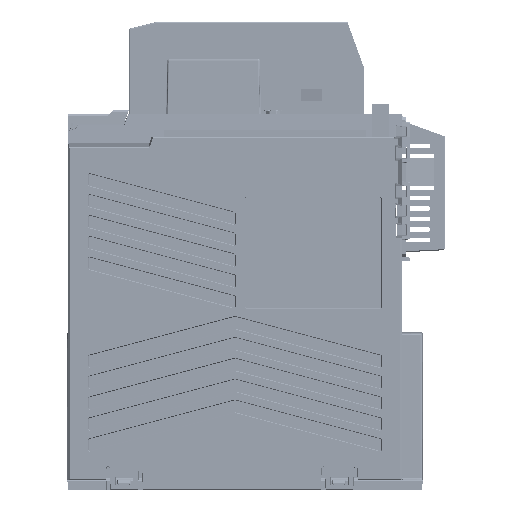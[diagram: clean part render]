
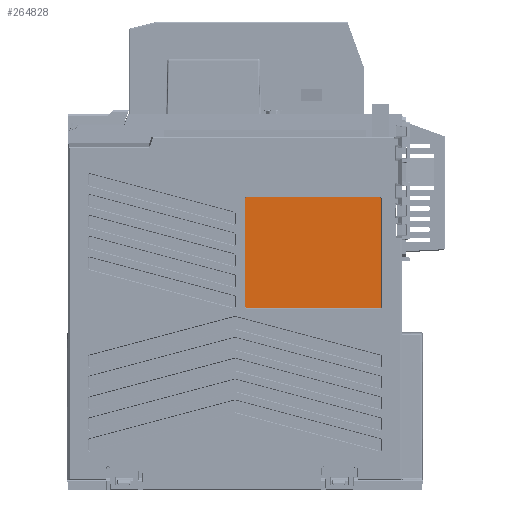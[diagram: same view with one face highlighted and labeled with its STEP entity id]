
A CAD part, left-side view. The second image highlights one B-rep face of the part: STEP entity #264828.
In plain terms, the highlighted planar face has unit normal (-1, 0, 0) as drawn and (1, 0, 0) by its records, which use the part's own axes.
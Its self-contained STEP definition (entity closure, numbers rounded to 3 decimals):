
#232908=DIRECTION('',(0.,0.,-1.));
#232909=VECTOR('',#232908,52.);
#232910=CARTESIAN_POINT('',(24.985,0.025,
146.465));
#232911=LINE('',#232910,#232909);
#232920=DIRECTION('',(0.,-1.,0.));
#232921=VECTOR('',#232920,64.);
#232922=CARTESIAN_POINT('',(24.985,64.525,
146.965));
#232923=LINE('',#232922,#232921);
#232932=DIRECTION('',(0.,0.,1.));
#232933=VECTOR('',#232932,52.);
#232934=CARTESIAN_POINT('',(24.985,65.025,
94.465));
#232935=LINE('',#232934,#232933);
#232936=CARTESIAN_POINT('',(24.985,0.525,
94.465));
#232937=DIRECTION('',(-1.,0.,0.));
#232938=DIRECTION('',(0.,0.,-1.));
#232939=AXIS2_PLACEMENT_3D('',#232936,#232937,#232938);
#232941=CARTESIAN_POINT('',(24.985,0.525,
146.465));
#232942=DIRECTION('',(-1.,0.,0.));
#232943=DIRECTION('',(0.,-1.,0.));
#232944=AXIS2_PLACEMENT_3D('',#232941,#232942,#232943);
#232946=CARTESIAN_POINT('',(24.985,64.525,
146.465));
#232947=DIRECTION('',(-1.,0.,0.));
#232948=DIRECTION('',(0.,0.,1.));
#232949=AXIS2_PLACEMENT_3D('',#232946,#232947,#232948);
#232951=CARTESIAN_POINT('',(24.985,64.525,
94.465));
#232952=DIRECTION('',(-1.,0.,0.));
#232953=DIRECTION('',(0.,1.,0.));
#232954=AXIS2_PLACEMENT_3D('',#232951,#232952,#232953);
#232956=DIRECTION('',(0.,1.,0.));
#232957=VECTOR('',#232956,64.);
#232958=CARTESIAN_POINT('',(24.985,0.525,
93.965));
#232959=LINE('',#232958,#232957);
#239932=CARTESIAN_POINT('',(24.985,0.025,
146.465));
#239933=VERTEX_POINT('',#239932);
#239934=CARTESIAN_POINT('',(24.985,0.025,
94.465));
#239935=VERTEX_POINT('',#239934);
#239936=CARTESIAN_POINT('',(24.985,0.525,
146.965));
#239937=VERTEX_POINT('',#239936);
#239938=CARTESIAN_POINT('',(24.985,64.525,
146.965));
#239939=VERTEX_POINT('',#239938);
#239940=CARTESIAN_POINT('',(24.985,65.025,
146.465));
#239941=VERTEX_POINT('',#239940);
#239942=CARTESIAN_POINT('',(24.985,65.025,
94.465));
#239943=VERTEX_POINT('',#239942);
#239944=CARTESIAN_POINT('',(24.985,0.525,
93.965));
#239945=CARTESIAN_POINT('',(24.985,64.525,
93.965));
#239946=VERTEX_POINT('',#239944);
#239947=VERTEX_POINT('',#239945);
#264810=CARTESIAN_POINT('',(24.985,75.025,
112.965));
#264811=DIRECTION('',(1.,0.,0.));
#264812=DIRECTION('',(0.,0.,1.));
#264813=AXIS2_PLACEMENT_3D('',#264810,#264811,#264812);
#264814=PLANE('',#264813);
#264816=ORIENTED_EDGE('',*,*,#264815,.F.);
#264818=ORIENTED_EDGE('',*,*,#264817,.T.);
#264819=ORIENTED_EDGE('',*,*,#264747,.F.);
#264820=ORIENTED_EDGE('',*,*,#264762,.T.);
#264821=ORIENTED_EDGE('',*,*,#264776,.F.);
#264822=ORIENTED_EDGE('',*,*,#264790,.T.);
#264823=ORIENTED_EDGE('',*,*,#264801,.F.);
#264825=ORIENTED_EDGE('',*,*,#264824,.T.);
#264826=EDGE_LOOP('',(#264816,#264818,#264819,#264820,#264821,#264822,#264823,
#264825));
#264827=FACE_OUTER_BOUND('',#264826,.F.);
#232940=CIRCLE('',#232939,0.5);
#232945=CIRCLE('',#232944,0.5);
#232950=CIRCLE('',#232949,0.5);
#232955=CIRCLE('',#232954,0.5);
#264747=EDGE_CURVE('',#239933,#239935,#232911,.T.);
#264762=EDGE_CURVE('',#239933,#239937,#232945,.T.);
#264776=EDGE_CURVE('',#239939,#239937,#232923,.T.);
#264790=EDGE_CURVE('',#239939,#239941,#232950,.T.);
#264801=EDGE_CURVE('',#239943,#239941,#232935,.T.);
#264815=EDGE_CURVE('',#239946,#239947,#232959,.T.);
#264817=EDGE_CURVE('',#239946,#239935,#232940,.T.);
#264824=EDGE_CURVE('',#239943,#239947,#232955,.T.);
#264828=ADVANCED_FACE('',(#264827),#264814,.T.);
